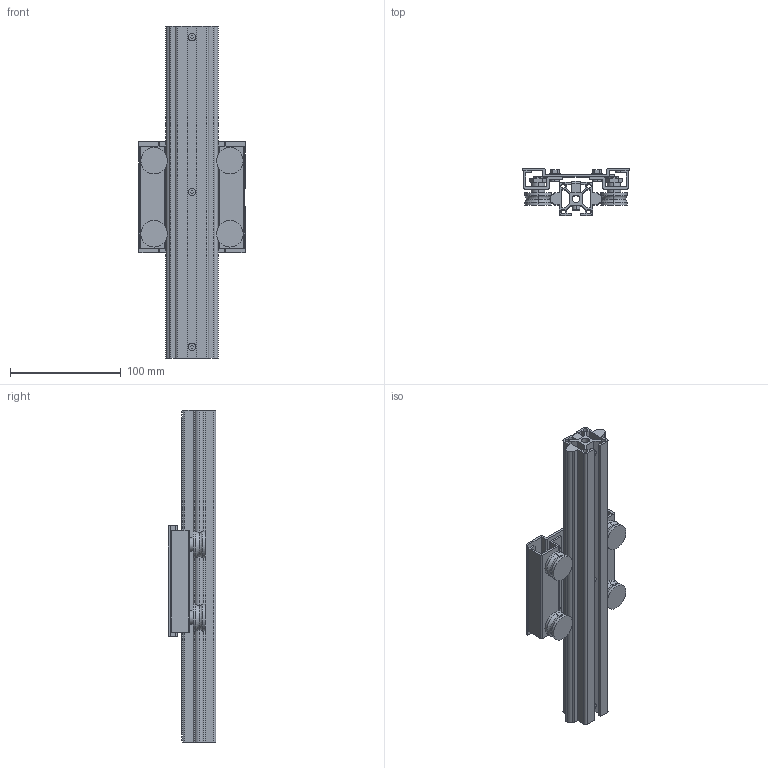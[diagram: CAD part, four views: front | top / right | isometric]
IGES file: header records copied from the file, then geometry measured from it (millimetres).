
Start section: SolidWorks IGES file using analytic representation for surfaces
Global section: file name: C:\Users\tsuch\OneDrive\デスクトップ\(作業中)LSR資料\LSR3030B.IGS; native system: SolidWorks 2019; preprocessor: SolidWorks 2019; author: tsuch; date: 200623.134257; units: millimetre
Bounding box: 96 x 43 x 300 mm (x, y, z)
Volume: 249077.6 mm3; surface area: 170758.9 mm2
Topology: 7 solids, 7 shells, 467 faces, 1165 edges, 740 vertices
Faces by surface type: plane 239, revolution 228
